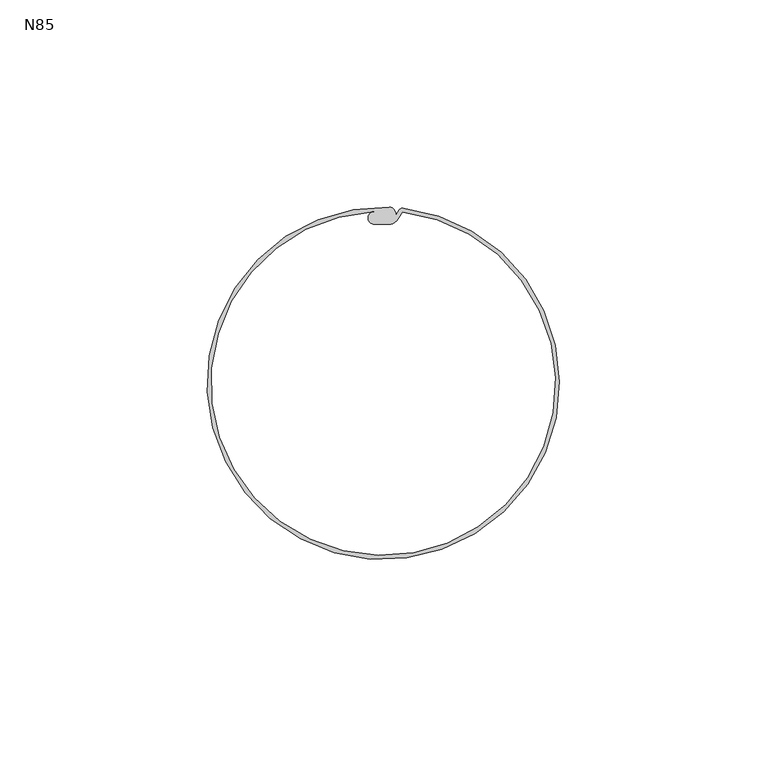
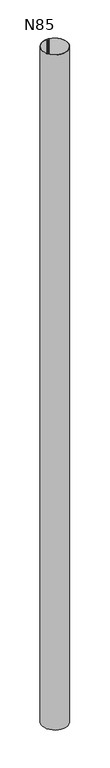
"""IFC4 building model written with IfcOpenShell, lengths in millimetres: proxy geometry, GROVIK_Downpipe_Straight_Vertical : N85."""

from ifc_helpers import new_model, si_unit, frame, origin, place, context, project, spatial, polyline, circle_curve, source, transform, mapped, element, save
from ifc_brep_helpers import plane_surface, cylinder_surface, revolved_surface, advanced_brep


def n85_1d244085(model_context):
    return source(origin(), model_context, "Body", "AdvancedBrep", [
        advanced_brep(
        [(4.7799116, 42.2303498, -6.0), (3.8941646, 41.9052634, -6.0), (2.8, 40.1056788, -6.0), (1.5, 42.4735212, -6.0), (4.6586072, 41.2376937, -6.0), (-2.286461, 41.4369653, -6.0), (-2.2, 38.3056788, -6.0), (1.4, 38.3056788, -6.0), (3.6663266, 39.6056788, -6.0), (4.7799116, 42.2303498, -2377.746879), (1.5, 42.4735212, -2377.746879), (2.8, 40.1056788, -2377.746879), (3.8941646, 41.9052634, -2377.746879), (4.6586072, 41.2376937, -2377.746879), (3.6663266, 39.6056788, -2377.746879), (1.4, 38.3056788, -2377.746879), (-2.2, 38.3056788, -2377.746879), (-2.2861899, 41.4320515, -2377.746879)],
        [
            (0, 1, circle_curve(frame((4.6614631, 41.1838618, -6.0), z_axis=(0.0, 0.0, 1.0), x_axis=(1.0, 0.0, 0.0)), 1.0531701)),
            (1, 2),
            (2, 3, circle_curve(frame((1.4323114, 40.8955724, -6.0), z_axis=(0.0, 0.0, 1.0), x_axis=(1.0, 0.0, 0.0)), 1.5793999)),
            (3, 0, circle_curve(frame((0.0, 0.0, -6.0), z_axis=(0.0, 0.0, 1.0), x_axis=(1.0, 0.0, 0.0)), 42.5)),
            (4, 5, circle_curve(frame((0.0, 0.0, -6.0), z_axis=(0.0, 0.0, -1.0), x_axis=(1.0, 0.0, 0.0)), 41.5)),
            (5, 6, circle_curve(frame((-2.2, 39.8700532, -6.0), z_axis=(0.0, 0.0, 1.0), x_axis=(1.0, 0.0, 0.0)), 1.5643744)),
            (6, 7),
            (7, 8, circle_curve(frame((1.3537816, 41.0117282, -6.0), z_axis=(0.0, 0.0, 1.0), x_axis=(1.0, 0.0, 0.0)), 2.7064441)),
            (8, 4),
            (9, 10, circle_curve(frame((0.0, 0.0, -2377.746879), z_axis=(0.0, 0.0, -1.0), x_axis=(1.0, 0.0, 0.0)), 42.5)),
            (10, 11, circle_curve(frame((1.4323114, 40.8955724, -2377.746879), z_axis=(0.0, 0.0, -1.0), x_axis=(1.0, 0.0, 0.0)), 1.5793999)),
            (11, 12),
            (12, 9, circle_curve(frame((4.6614631, 41.1838618, -2377.746879), z_axis=(0.0, 0.0, -1.0), x_axis=(1.0, 0.0, 0.0)), 1.0531701)),
            (13, 14),
            (14, 15, circle_curve(frame((1.3537816, 41.0117282, -2377.746879), z_axis=(0.0, 0.0, -1.0), x_axis=(1.0, 0.0, 0.0)), 2.7064441)),
            (15, 16),
            (16, 17, circle_curve(frame((-2.2, 39.8700532, -2377.746879), z_axis=(0.0, 0.0, -1.0), x_axis=(1.0, 0.0, 0.0)), 1.5643744)),
            (17, 13, circle_curve(frame((0.0, 0.0, -2377.746879), z_axis=(0.0, 0.0, 1.0), x_axis=(1.0, 0.0, 0.0)), 41.5)),
            (4, 13),
            (17, 5),
            (16, 6),
            (15, 7),
            (14, 8),
            (0, 9),
            (12, 1),
            (11, 2),
            (10, 3),
        ],
        [
            plane_surface(frame((0.0, 0.0, -6.0), z_axis=(0.0, 0.0, 1.0), x_axis=(0.0, -1.0, 0.0))),
            plane_surface(frame((0.0, 0.0, -2377.746879), z_axis=(0.0, 0.0, -1.0), x_axis=(0.0, -1.0, 0.0))),
            revolved_surface(polyline([(41.5, 0.0, -2377.746879), (41.5, 0.0, -6.0)]), (0.0, 0.0, -6.0), (0.0, 0.0, -1.0)),
            cylinder_surface(frame((-2.2, 39.8700532, -6.0), z_axis=(0.0, 0.0, 1.0), x_axis=(1.0, 0.0, 0.0)), 1.5643744),
            plane_surface(frame((-2.2, 38.3056788, -6.0), z_axis=(0.0, -1.0, 0.0), x_axis=(0.0, 0.0, -1.0))),
            cylinder_surface(frame((1.3537816, 41.0117282, -6.0), z_axis=(0.0, 0.0, 1.0), x_axis=(1.0, 0.0, 0.0)), 2.7064441),
            plane_surface(frame((3.6663266, 39.6056788, -6.0), z_axis=(0.8544588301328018, -0.5195191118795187, 0.0), x_axis=(0.0, 0.0, -1.0))),
            cylinder_surface(frame((4.6614631, 41.1838618, -6.0), z_axis=(0.0, 0.0, 1.0), x_axis=(1.0, 0.0, 0.0)), 1.0531701),
            plane_surface(frame((3.8941646, 41.9052634, -6.0), z_axis=(-0.8544588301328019, 0.5195191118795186, 0.0), x_axis=(0.0, 0.0, -1.0))),
            cylinder_surface(frame((1.4323114, 40.8955724, -6.0), z_axis=(0.0, 0.0, 1.0), x_axis=(1.0, 0.0, 0.0)), 1.5793999),
            cylinder_surface(frame((0.0, 0.0, -6.0), z_axis=(0.0, 0.0, 1.0), x_axis=(1.0, 0.0, 0.0)), 42.5),
        ],
        [
            (0, [[1, 2, 3, 4], [5, 6, 7, 8, 9]]),
            (1, [[10, 11, 12, 13], [14, 15, 16, 17, 18]]),
            (2, [[-5, 19, -18, 20]]),
            (3, [[-6, -20, -17, 21]]),
            (4, [[-7, -21, -16, 22]]),
            (5, [[-8, -22, -15, 23]]),
            (6, [[-9, -23, -14, -19]]),
            (7, [[-1, 24, -13, 25]]),
            (8, [[-2, -25, -12, 26]]),
            (9, [[-3, -26, -11, 27]]),
            (10, [[-4, -27, -10, -24]]),
        ],
    ),
    ])


if __name__ == "__main__":
    model = new_model("IFC4")
    model_context = context("Model", 3, world=origin())
    ifc_project = project(units=[si_unit("LENGTHUNIT", "METRE", prefix="MILLI")], contexts=[model_context])
    site = spatial("IfcSite", under=ifc_project)
    building = spatial("IfcBuilding", under=site)
    placement = place(None, origin())
    n85_shape = n85_1d244085(model_context)
    element("IfcBuildingElementProxy", 1, Name="GROVIK_Downpipe_Straight_Vertical : N85", ObjectType="GROVIK_Downpipe_Straight_Vertical : N85", at=placement, inside=building, context=model_context, shape_type="MappedRepresentation", body=[
        mapped(n85_shape, transform((0.0, 0.0, 0.0), x_axis=(1.0, 0.0, 0.0), y_axis=(0.0, 1.0, 0.0), z_axis=(0.0, 0.0, 1.0))),
    ])
    save(model, "model.ifc")
